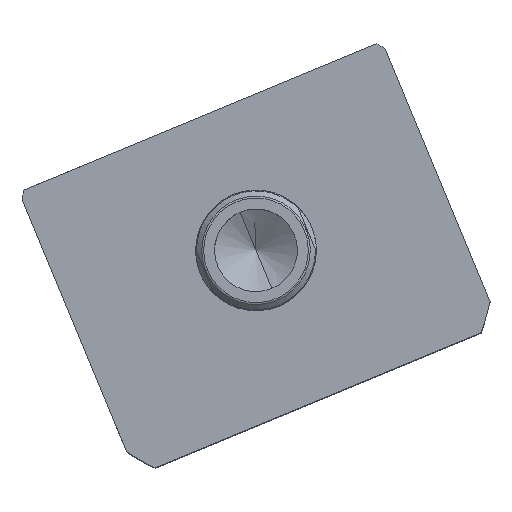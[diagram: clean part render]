
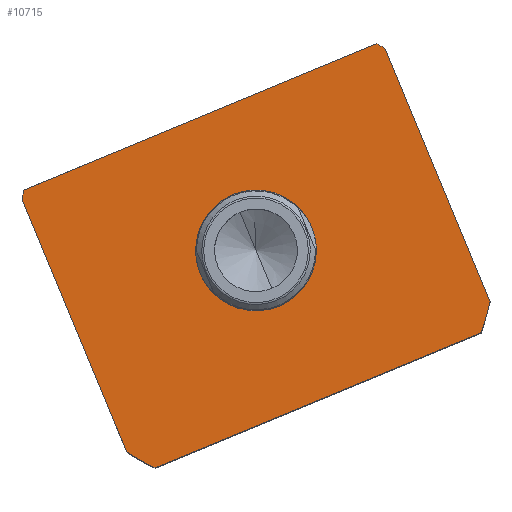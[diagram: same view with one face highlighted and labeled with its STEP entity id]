
A CAD part, top view. The second image highlights one B-rep face of the part: STEP entity #10715.
In plain terms, the highlighted planar face has unit normal (0, 0, 1) as drawn and (0, 0, -1) by its records, which use the part's own axes.
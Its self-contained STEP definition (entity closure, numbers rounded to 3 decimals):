
#128 = AXIS2_PLACEMENT_3D ( 'NONE', #6160, #16027, #7568 ) ;
#198 = CIRCLE ( 'NONE', #2095, 17.5 ) ;
#238 = VERTEX_POINT ( 'NONE', #15136 ) ;
#429 = VERTEX_POINT ( 'NONE', #6294 ) ;
#938 = VERTEX_POINT ( 'NONE', #2077 ) ;
#1009 = ORIENTED_EDGE ( 'NONE', *, *, #16993, .F. ) ;
#1103 = DIRECTION ( 'NONE',  ( 1., 0., 0. ) ) ;
#1370 = DIRECTION ( 'NONE',  ( 0., 0., 1. ) ) ;
#1759 = CIRCLE ( 'NONE', #6282, 69.5 ) ;
#1781 = LINE ( 'NONE', #7749, #12563 ) ;
#1888 = FACE_OUTER_BOUND ( 'NONE', #5157, .T. ) ;
#2077 = CARTESIAN_POINT ( 'NONE',  ( -57., -19.732, 0. ) ) ;
#2095 = AXIS2_PLACEMENT_3D ( 'NONE', #9814, #1370, #11239 ) ;
#2743 = LINE ( 'NONE', #12652, #13575 ) ;
#2808 = VERTEX_POINT ( 'NONE', #8623 ) ;
#2985 = CARTESIAN_POINT ( 'NONE',  ( 57., -99.262, 0. ) ) ;
#3151 = EDGE_CURVE ( 'NONE', #4436, #9176, #17338, .T. ) ;
#3301 = ORIENTED_EDGE ( 'NONE', *, *, #15717, .F. ) ;
#3312 = DIRECTION ( 'NONE',  ( 0., 0., 1. ) ) ;
#3383 = VERTEX_POINT ( 'NONE', #6798 ) ;
#3560 = ORIENTED_EDGE ( 'NONE', *, *, #6603, .F. ) ;
#4101 = VERTEX_POINT ( 'NONE', #6802 ) ;
#4436 = VERTEX_POINT ( 'NONE', #10616 ) ;
#4501 = DIRECTION ( 'NONE',  ( 1., 0., 0. ) ) ;
#4571 = ORIENTED_EDGE ( 'NONE', *, *, #6359, .T. ) ;
#4737 = CARTESIAN_POINT ( 'NONE',  ( 51.198, -106.497, 0. ) ) ;
#4938 = EDGE_CURVE ( 'NONE', #938, #429, #10160, .T. ) ;
#5157 = EDGE_LOOP ( 'NONE', ( #3560, #11095, #3301, #1009, #5305, #13058, #13678, #12629 ) ) ;
#5305 = ORIENTED_EDGE ( 'NONE', *, *, #7223, .F. ) ;
#5310 = AXIS2_PLACEMENT_3D ( 'NONE', #18019, #9548, #1103 ) ;
#5479 = CARTESIAN_POINT ( 'NONE',  ( 0., -59.497, 0. ) ) ;
#6160 = CARTESIAN_POINT ( 'NONE',  ( 0., -59.497, 0. ) ) ;
#6205 = CIRCLE ( 'NONE', #128, 17.5 ) ;
#6282 = AXIS2_PLACEMENT_3D ( 'NONE', #15239, #6786, #16658 ) ;
#6294 = CARTESIAN_POINT ( 'NONE',  ( -57., -99.262, 0. ) ) ;
#6359 = EDGE_CURVE ( 'NONE', #3383, #238, #198, .T. ) ;
#6415 = VECTOR ( 'NONE', #11203, 1000. ) ;
#6558 = VERTEX_POINT ( 'NONE', #2985 ) ;
#6603 = EDGE_CURVE ( 'NONE', #2808, #4436, #13000, .T. ) ;
#6786 = DIRECTION ( 'NONE',  ( 0., 0., 1. ) ) ;
#6798 = CARTESIAN_POINT ( 'NONE',  ( 17.5, -59.497, 0. ) ) ;
#6802 = CARTESIAN_POINT ( 'NONE',  ( -51.198, -106.497, 0. ) ) ;
#6894 = DIRECTION ( 'NONE',  ( 1., 0., 0. ) ) ;
#6976 = DIRECTION ( 'NONE',  ( 0., 1., 0. ) ) ;
#7223 = EDGE_CURVE ( 'NONE', #429, #4101, #16324, .T. ) ;
#7280 = EDGE_CURVE ( 'NONE', #9176, #938, #1759, .T. ) ;
#7568 = DIRECTION ( 'NONE',  ( 1., 0., 0. ) ) ;
#7749 = CARTESIAN_POINT ( 'NONE',  ( -57., -106.497, 0. ) ) ;
#7765 = AXIS2_PLACEMENT_3D ( 'NONE', #5479, #15348, #6894 ) ;
#8623 = CARTESIAN_POINT ( 'NONE',  ( 57., -19.732, 0. ) ) ;
#8686 = PLANE ( 'NONE',  #12406 ) ;
#9176 = VERTEX_POINT ( 'NONE', #10030 ) ;
#9548 = DIRECTION ( 'NONE',  ( 0., 0., 1. ) ) ;
#9731 = CARTESIAN_POINT ( 'NONE',  ( -57., -17.497, 0. ) ) ;
#9814 = CARTESIAN_POINT ( 'NONE',  ( 0., -59.497, 0. ) ) ;
#10030 = CARTESIAN_POINT ( 'NONE',  ( -55.374, -17.497, 0. ) ) ;
#10160 = LINE ( 'NONE', #16756, #6415 ) ;
#10577 = EDGE_CURVE ( 'NONE', #6558, #2808, #2743, .T. ) ;
#10616 = CARTESIAN_POINT ( 'NONE',  ( 55.374, -17.497, 0. ) ) ;
#10715 = ADVANCED_FACE ( 'NONE', ( #13138, #1888 ), #8686, .F. ) ;
#11095 = ORIENTED_EDGE ( 'NONE', *, *, #10577, .F. ) ;
#11157 = DIRECTION ( 'NONE',  ( -1., 0., 0. ) ) ;
#11203 = DIRECTION ( 'NONE',  ( 0., -1., 0. ) ) ;
#11239 = DIRECTION ( 'NONE',  ( 1., 0., 0. ) ) ;
#11772 = CARTESIAN_POINT ( 'NONE',  ( 0., -59.497, 0. ) ) ;
#12406 = AXIS2_PLACEMENT_3D ( 'NONE', #14319, #12953, #4501 ) ;
#12563 = VECTOR ( 'NONE', #16212, 1000. ) ;
#12629 = ORIENTED_EDGE ( 'NONE', *, *, #3151, .F. ) ;
#12652 = CARTESIAN_POINT ( 'NONE',  ( 57., -17.497, 0. ) ) ;
#12783 = AXIS2_PLACEMENT_3D ( 'NONE', #11772, #3312, #13179 ) ;
#12906 = ORIENTED_EDGE ( 'NONE', *, *, #15735, .T. ) ;
#12953 = DIRECTION ( 'NONE',  ( 0., 0., 1. ) ) ;
#13000 = CIRCLE ( 'NONE', #7765, 69.5 ) ;
#13058 = ORIENTED_EDGE ( 'NONE', *, *, #4938, .F. ) ;
#13138 = FACE_BOUND ( 'NONE', #16644, .T. ) ;
#13179 = DIRECTION ( 'NONE',  ( 1., 0., 0. ) ) ;
#13568 = VECTOR ( 'NONE', #11157, 1000. ) ;
#13575 = VECTOR ( 'NONE', #6976, 1000. ) ;
#13678 = ORIENTED_EDGE ( 'NONE', *, *, #7280, .F. ) ;
#14319 = CARTESIAN_POINT ( 'NONE',  ( 0., 0., 0. ) ) ;
#15136 = CARTESIAN_POINT ( 'NONE',  ( -17.5, -59.497, 0. ) ) ;
#15239 = CARTESIAN_POINT ( 'NONE',  ( 0., -59.497, 0. ) ) ;
#15348 = DIRECTION ( 'NONE',  ( 0., 0., 1. ) ) ;
#15717 = EDGE_CURVE ( 'NONE', #15783, #6558, #17001, .T. ) ;
#15735 = EDGE_CURVE ( 'NONE', #238, #3383, #6205, .T. ) ;
#15783 = VERTEX_POINT ( 'NONE', #4737 ) ;
#16027 = DIRECTION ( 'NONE',  ( 0., 0., 1. ) ) ;
#16212 = DIRECTION ( 'NONE',  ( 1., 0., 0. ) ) ;
#16324 = CIRCLE ( 'NONE', #5310, 69.5 ) ;
#16644 = EDGE_LOOP ( 'NONE', ( #4571, #12906 ) ) ;
#16658 = DIRECTION ( 'NONE',  ( 1., 0., 0. ) ) ;
#16756 = CARTESIAN_POINT ( 'NONE',  ( -57., -17.497, 0. ) ) ;
#16993 = EDGE_CURVE ( 'NONE', #4101, #15783, #1781, .T. ) ;
#17001 = CIRCLE ( 'NONE', #12783, 69.5 ) ;
#17338 = LINE ( 'NONE', #9731, #13568 ) ;
#18019 = CARTESIAN_POINT ( 'NONE',  ( 0., -59.497, 0. ) ) ;
